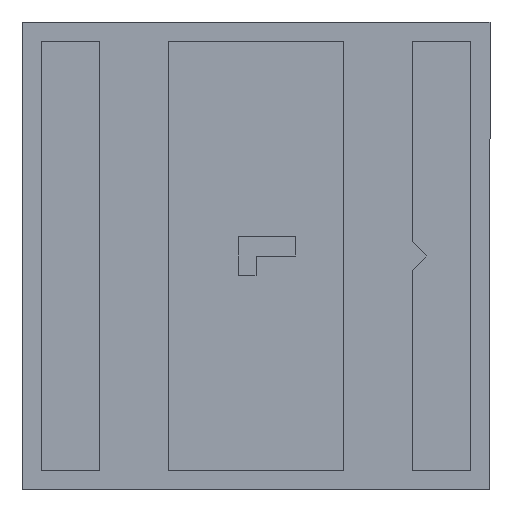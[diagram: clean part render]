
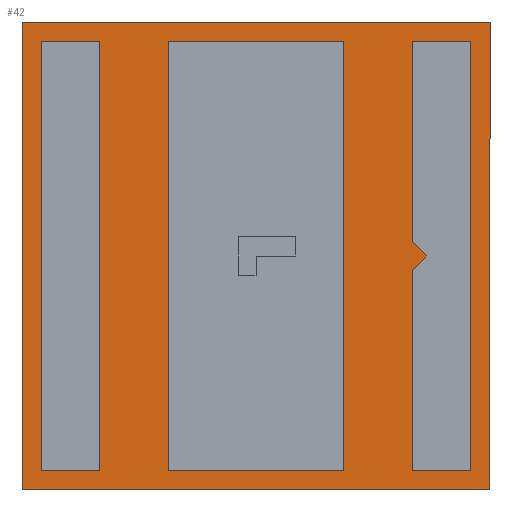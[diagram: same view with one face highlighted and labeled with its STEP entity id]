
A CAD part, front view. The second image highlights one B-rep face of the part: STEP entity #42.
In plain terms, the highlighted planar face has unit normal (0, -1, 0).
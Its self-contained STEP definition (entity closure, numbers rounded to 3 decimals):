
#2 = CARTESIAN_POINT ( 'NONE',  ( -0.46, 0., 1.125 ) ) ;
#7 = DIRECTION ( 'NONE',  ( 0., 0., 1. ) ) ;
#12 = CARTESIAN_POINT ( 'NONE',  ( -1.125, 0., 1.125 ) ) ;
#22 = VECTOR ( 'NONE', #123, 1000. ) ;
#42 = ADVANCED_FACE ( 'NONE', ( #1104, #1162, #254, #915 ), #796, .F. ) ;
#48 = CARTESIAN_POINT ( 'NONE',  ( 1.225, 0., 1.225 ) ) ;
#58 = CARTESIAN_POINT ( 'NONE',  ( 1.125, 0., 1.125 ) ) ;
#68 = DIRECTION ( 'NONE',  ( -1., 0., 0. ) ) ;
#80 = ORIENTED_EDGE ( 'NONE', *, *, #423, .F. ) ;
#92 = LINE ( 'NONE', #635, #468 ) ;
#96 = EDGE_LOOP ( 'NONE', ( #1242, #831, #1022, #1357 ) ) ;
#98 = ORIENTED_EDGE ( 'NONE', *, *, #156, .F. ) ;
#99 = CARTESIAN_POINT ( 'NONE',  ( 1.125, 0., 1.125 ) ) ;
#110 = VERTEX_POINT ( 'NONE', #273 ) ;
#112 = CARTESIAN_POINT ( 'NONE',  ( -0.46, 0., -1.125 ) ) ;
#114 = CARTESIAN_POINT ( 'NONE',  ( -1.225, 0., 1.225 ) ) ;
#115 = DIRECTION ( 'NONE',  ( 0., 0., -1. ) ) ;
#118 = DIRECTION ( 'NONE',  ( 1., 0., 0. ) ) ;
#123 = DIRECTION ( 'NONE',  ( 0., 0., -1. ) ) ;
#128 = VECTOR ( 'NONE', #1252, 1000. ) ;
#132 = DIRECTION ( 'NONE',  ( -1., 0., 0. ) ) ;
#156 = EDGE_CURVE ( 'NONE', #595, #740, #291, .T. ) ;
#162 = VECTOR ( 'NONE', #283, 1000. ) ;
#163 = VECTOR ( 'NONE', #173, 1000. ) ;
#164 = VECTOR ( 'NONE', #68, 1000. ) ;
#173 = DIRECTION ( 'NONE',  ( 0.707, 0., -0.707 ) ) ;
#176 = CARTESIAN_POINT ( 'NONE',  ( 0.82, 0., -0.075 ) ) ;
#177 = EDGE_LOOP ( 'NONE', ( #402, #898, #1316, #1165, #626, #800, #1044 ) ) ;
#192 = VECTOR ( 'NONE', #118, 1000. ) ;
#198 = CARTESIAN_POINT ( 'NONE',  ( -1.225, 0., -1.225 ) ) ;
#202 = EDGE_CURVE ( 'NONE', #372, #110, #1359, .T. ) ;
#209 = CARTESIAN_POINT ( 'NONE',  ( 1.225, 0., -1.225 ) ) ;
#218 = ORIENTED_EDGE ( 'NONE', *, *, #390, .F. ) ;
#222 = ORIENTED_EDGE ( 'NONE', *, *, #793, .F. ) ;
#225 = VECTOR ( 'NONE', #115, 1000. ) ;
#232 = CARTESIAN_POINT ( 'NONE',  ( -0.82, 0., 1.125 ) ) ;
#233 = CARTESIAN_POINT ( 'NONE',  ( 0.46, 0., 1.125 ) ) ;
#241 = CARTESIAN_POINT ( 'NONE',  ( -1.125, 0., -1.125 ) ) ;
#254 = FACE_BOUND ( 'NONE', #177, .T. ) ;
#259 = VERTEX_POINT ( 'NONE', #1136 ) ;
#273 = CARTESIAN_POINT ( 'NONE',  ( 0.895, 0., 0. ) ) ;
#283 = DIRECTION ( 'NONE',  ( 0., 0., -1. ) ) ;
#285 = DIRECTION ( 'NONE',  ( 0., 1., 0. ) ) ;
#291 = LINE ( 'NONE', #495, #785 ) ;
#306 = DIRECTION ( 'NONE',  ( 1., 0., 0. ) ) ;
#308 = ORIENTED_EDGE ( 'NONE', *, *, #841, .F. ) ;
#340 = VECTOR ( 'NONE', #435, 1000. ) ;
#353 = CARTESIAN_POINT ( 'NONE',  ( -0.82, 0., 1.125 ) ) ;
#371 = CARTESIAN_POINT ( 'NONE',  ( 0.46, 0., -1.125 ) ) ;
#372 = VERTEX_POINT ( 'NONE', #1163 ) ;
#382 = CARTESIAN_POINT ( 'NONE',  ( 0.82, 0., -1.125 ) ) ;
#390 = EDGE_CURVE ( 'NONE', #1223, #1240, #1009, .T. ) ;
#396 = CARTESIAN_POINT ( 'NONE',  ( 0.82, 0., 0.075 ) ) ;
#401 = VERTEX_POINT ( 'NONE', #514 ) ;
#402 = ORIENTED_EDGE ( 'NONE', *, *, #533, .F. ) ;
#404 = CARTESIAN_POINT ( 'NONE',  ( -1.225, 0., -1.225 ) ) ;
#421 = AXIS2_PLACEMENT_3D ( 'NONE', #1016, #285, #695 ) ;
#422 = VERTEX_POINT ( 'NONE', #634 ) ;
#423 = EDGE_CURVE ( 'NONE', #456, #1080, #702, .T. ) ;
#435 = DIRECTION ( 'NONE',  ( 0., 0., 1. ) ) ;
#447 = LINE ( 'NONE', #930, #490 ) ;
#448 = LINE ( 'NONE', #561, #340 ) ;
#456 = VERTEX_POINT ( 'NONE', #114 ) ;
#465 = EDGE_CURVE ( 'NONE', #934, #474, #448, .T. ) ;
#468 = VECTOR ( 'NONE', #735, 1000. ) ;
#472 = VERTEX_POINT ( 'NONE', #652 ) ;
#474 = VERTEX_POINT ( 'NONE', #232 ) ;
#490 = VECTOR ( 'NONE', #1355, 1000. ) ;
#495 = CARTESIAN_POINT ( 'NONE',  ( -0.46, 0., -1.125 ) ) ;
#514 = CARTESIAN_POINT ( 'NONE',  ( -0.46, 0., 1.125 ) ) ;
#515 = VERTEX_POINT ( 'NONE', #241 ) ;
#530 = VECTOR ( 'NONE', #602, 1000. ) ;
#533 = EDGE_CURVE ( 'NONE', #759, #422, #888, .T. ) ;
#551 = VECTOR ( 'NONE', #132, 1000. ) ;
#561 = CARTESIAN_POINT ( 'NONE',  ( -0.82, 0., 1.125 ) ) ;
#595 = VERTEX_POINT ( 'NONE', #112 ) ;
#602 = DIRECTION ( 'NONE',  ( 1., 0., 0. ) ) ;
#604 = LINE ( 'NONE', #1384, #1174 ) ;
#610 = ORIENTED_EDGE ( 'NONE', *, *, #1367, .F. ) ;
#615 = EDGE_CURVE ( 'NONE', #474, #259, #1402, .T. ) ;
#626 = ORIENTED_EDGE ( 'NONE', *, *, #1300, .F. ) ;
#634 = CARTESIAN_POINT ( 'NONE',  ( 1.125, 0., -1.125 ) ) ;
#635 = CARTESIAN_POINT ( 'NONE',  ( 0.82, 0., 1.125 ) ) ;
#645 = ORIENTED_EDGE ( 'NONE', *, *, #1069, .F. ) ;
#652 = CARTESIAN_POINT ( 'NONE',  ( 0.82, 0., 1.125 ) ) ;
#668 = LINE ( 'NONE', #12, #22 ) ;
#684 = VECTOR ( 'NONE', #1144, 1000. ) ;
#695 = DIRECTION ( 'NONE',  ( 0., 0., 1. ) ) ;
#702 = LINE ( 'NONE', #1154, #128 ) ;
#724 = EDGE_LOOP ( 'NONE', ( #308, #218, #645, #80 ) ) ;
#728 = EDGE_CURVE ( 'NONE', #110, #798, #1123, .T. ) ;
#735 = DIRECTION ( 'NONE',  ( 0., 0., -1. ) ) ;
#740 = VERTEX_POINT ( 'NONE', #371 ) ;
#754 = EDGE_CURVE ( 'NONE', #1003, #472, #941, .T. ) ;
#759 = VERTEX_POINT ( 'NONE', #382 ) ;
#768 = DIRECTION ( 'NONE',  ( 0., 0., 1. ) ) ;
#785 = VECTOR ( 'NONE', #306, 1000. ) ;
#793 = EDGE_CURVE ( 'NONE', #1397, #401, #447, .T. ) ;
#796 = PLANE ( 'NONE',  #421 ) ;
#798 = VERTEX_POINT ( 'NONE', #176 ) ;
#800 = ORIENTED_EDGE ( 'NONE', *, *, #754, .F. ) ;
#811 = LINE ( 'NONE', #233, #1036 ) ;
#831 = ORIENTED_EDGE ( 'NONE', *, *, #615, .F. ) ;
#839 = CARTESIAN_POINT ( 'NONE',  ( -1.225, 0., -1.225 ) ) ;
#841 = EDGE_CURVE ( 'NONE', #1240, #456, #1324, .T. ) ;
#888 = LINE ( 'NONE', #1085, #192 ) ;
#898 = ORIENTED_EDGE ( 'NONE', *, *, #1270, .F. ) ;
#915 = FACE_BOUND ( 'NONE', #964, .T. ) ;
#922 = LINE ( 'NONE', #1338, #162 ) ;
#925 = VECTOR ( 'NONE', #1326, 1000. ) ;
#930 = CARTESIAN_POINT ( 'NONE',  ( 0.46, 0., 1.125 ) ) ;
#934 = VERTEX_POINT ( 'NONE', #972 ) ;
#938 = EDGE_CURVE ( 'NONE', #401, #595, #1341, .T. ) ;
#941 = LINE ( 'NONE', #58, #164 ) ;
#942 = CARTESIAN_POINT ( 'NONE',  ( 0.82, 0., -0.075 ) ) ;
#947 = DIRECTION ( 'NONE',  ( 0., 0., 1. ) ) ;
#964 = EDGE_LOOP ( 'NONE', ( #98, #991, #222, #610 ) ) ;
#972 = CARTESIAN_POINT ( 'NONE',  ( -0.82, 0., -1.125 ) ) ;
#973 = VECTOR ( 'NONE', #1398, 1000. ) ;
#991 = ORIENTED_EDGE ( 'NONE', *, *, #938, .F. ) ;
#1003 = VERTEX_POINT ( 'NONE', #99 ) ;
#1007 = CARTESIAN_POINT ( 'NONE',  ( 0.895, 0., 0. ) ) ;
#1009 = LINE ( 'NONE', #198, #973 ) ;
#1016 = CARTESIAN_POINT ( 'NONE',  ( 0., 0., 0. ) ) ;
#1022 = ORIENTED_EDGE ( 'NONE', *, *, #465, .F. ) ;
#1036 = VECTOR ( 'NONE', #7, 1000. ) ;
#1044 = ORIENTED_EDGE ( 'NONE', *, *, #1346, .F. ) ;
#1069 = EDGE_CURVE ( 'NONE', #1080, #1223, #922, .T. ) ;
#1080 = VERTEX_POINT ( 'NONE', #48 ) ;
#1085 = CARTESIAN_POINT ( 'NONE',  ( 0.82, 0., -1.125 ) ) ;
#1097 = VECTOR ( 'NONE', #947, 1000. ) ;
#1104 = FACE_BOUND ( 'NONE', #96, .T. ) ;
#1123 = LINE ( 'NONE', #1007, #925 ) ;
#1136 = CARTESIAN_POINT ( 'NONE',  ( -1.125, 0., 1.125 ) ) ;
#1144 = DIRECTION ( 'NONE',  ( 0., 0., -1. ) ) ;
#1154 = CARTESIAN_POINT ( 'NONE',  ( -1.225, 0., 1.225 ) ) ;
#1162 = FACE_OUTER_BOUND ( 'NONE', #724, .T. ) ;
#1163 = CARTESIAN_POINT ( 'NONE',  ( 0.82, 0., 0.075 ) ) ;
#1165 = ORIENTED_EDGE ( 'NONE', *, *, #202, .F. ) ;
#1174 = VECTOR ( 'NONE', #768, 1000. ) ;
#1205 = LINE ( 'NONE', #1361, #530 ) ;
#1209 = EDGE_CURVE ( 'NONE', #515, #934, #1205, .T. ) ;
#1223 = VERTEX_POINT ( 'NONE', #209 ) ;
#1240 = VERTEX_POINT ( 'NONE', #839 ) ;
#1242 = ORIENTED_EDGE ( 'NONE', *, *, #1348, .F. ) ;
#1252 = DIRECTION ( 'NONE',  ( 1., 0., 0. ) ) ;
#1270 = EDGE_CURVE ( 'NONE', #798, #759, #1389, .T. ) ;
#1293 = CARTESIAN_POINT ( 'NONE',  ( 0.46, 0., 1.125 ) ) ;
#1300 = EDGE_CURVE ( 'NONE', #472, #372, #92, .T. ) ;
#1316 = ORIENTED_EDGE ( 'NONE', *, *, #728, .F. ) ;
#1324 = LINE ( 'NONE', #404, #1097 ) ;
#1326 = DIRECTION ( 'NONE',  ( -0.707, 0., -0.707 ) ) ;
#1338 = CARTESIAN_POINT ( 'NONE',  ( 1.225, 0., -1.225 ) ) ;
#1341 = LINE ( 'NONE', #2, #225 ) ;
#1346 = EDGE_CURVE ( 'NONE', #422, #1003, #604, .T. ) ;
#1348 = EDGE_CURVE ( 'NONE', #259, #515, #668, .T. ) ;
#1355 = DIRECTION ( 'NONE',  ( -1., 0., 0. ) ) ;
#1357 = ORIENTED_EDGE ( 'NONE', *, *, #1209, .F. ) ;
#1359 = LINE ( 'NONE', #396, #163 ) ;
#1361 = CARTESIAN_POINT ( 'NONE',  ( -1.125, 0., -1.125 ) ) ;
#1367 = EDGE_CURVE ( 'NONE', #740, #1397, #811, .T. ) ;
#1384 = CARTESIAN_POINT ( 'NONE',  ( 1.125, 0., -1.125 ) ) ;
#1389 = LINE ( 'NONE', #942, #684 ) ;
#1397 = VERTEX_POINT ( 'NONE', #1293 ) ;
#1398 = DIRECTION ( 'NONE',  ( -1., 0., 0. ) ) ;
#1402 = LINE ( 'NONE', #353, #551 ) ;
